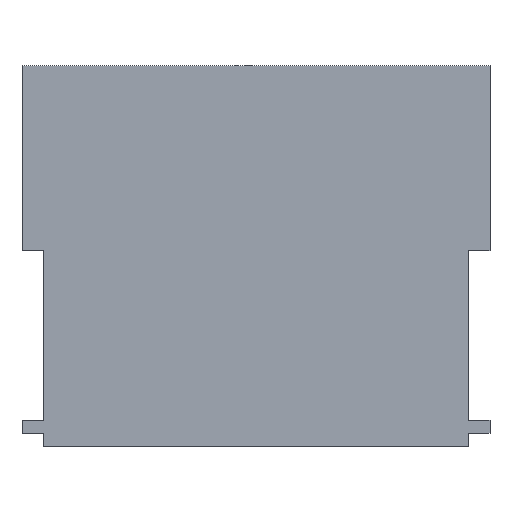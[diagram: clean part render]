
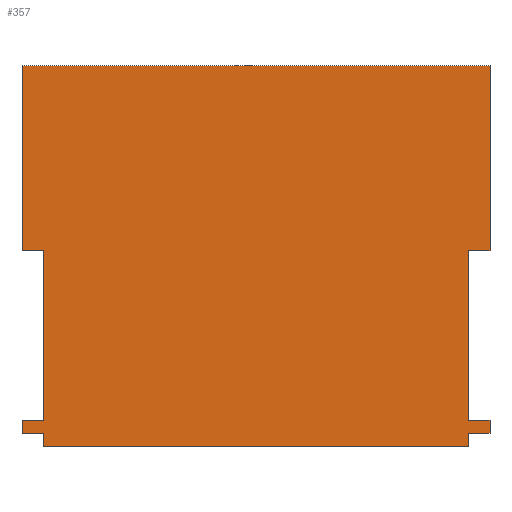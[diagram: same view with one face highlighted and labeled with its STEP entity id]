
A CAD part, top view. The second image highlights one B-rep face of the part: STEP entity #357.
In plain terms, the highlighted planar face has unit normal (0, 0, 1).
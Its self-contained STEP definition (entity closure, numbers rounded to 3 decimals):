
#31=FACE_OUTER_BOUND('',#49,.T.);
#49=EDGE_LOOP('',(#291,#292,#293,#294,#295,#296,#297,#298,#299,#300,#301,
#302,#303,#304,#305,#306));
#53=LINE('',#473,#101);
#56=LINE('',#479,#104);
#59=LINE('',#485,#107);
#62=LINE('',#491,#110);
#65=LINE('',#497,#113);
#68=LINE('',#503,#116);
#71=LINE('',#509,#119);
#74=LINE('',#515,#122);
#77=LINE('',#521,#125);
#80=LINE('',#527,#128);
#83=LINE('',#533,#131);
#86=LINE('',#539,#134);
#89=LINE('',#545,#137);
#92=LINE('',#551,#140);
#95=LINE('',#557,#143);
#98=LINE('',#561,#146);
#101=VECTOR('',#385,10.);
#104=VECTOR('',#390,10.);
#107=VECTOR('',#395,10.);
#110=VECTOR('',#400,10.);
#113=VECTOR('',#405,10.);
#116=VECTOR('',#410,10.);
#119=VECTOR('',#415,10.);
#122=VECTOR('',#420,10.);
#125=VECTOR('',#425,10.);
#128=VECTOR('',#430,10.);
#131=VECTOR('',#435,10.);
#134=VECTOR('',#440,10.);
#137=VECTOR('',#445,10.);
#140=VECTOR('',#450,10.);
#143=VECTOR('',#455,10.);
#146=VECTOR('',#460,10.);
#149=VERTEX_POINT('',#470);
#150=VERTEX_POINT('',#472);
#152=VERTEX_POINT('',#478);
#154=VERTEX_POINT('',#484);
#156=VERTEX_POINT('',#490);
#158=VERTEX_POINT('',#496);
#160=VERTEX_POINT('',#502);
#162=VERTEX_POINT('',#508);
#164=VERTEX_POINT('',#514);
#166=VERTEX_POINT('',#520);
#168=VERTEX_POINT('',#526);
#170=VERTEX_POINT('',#532);
#172=VERTEX_POINT('',#538);
#174=VERTEX_POINT('',#544);
#176=VERTEX_POINT('',#550);
#178=VERTEX_POINT('',#556);
#181=EDGE_CURVE('',#150,#149,#53,.T.);
#184=EDGE_CURVE('',#152,#150,#56,.T.);
#187=EDGE_CURVE('',#154,#152,#59,.T.);
#190=EDGE_CURVE('',#156,#154,#62,.T.);
#193=EDGE_CURVE('',#158,#156,#65,.T.);
#196=EDGE_CURVE('',#160,#158,#68,.T.);
#199=EDGE_CURVE('',#162,#160,#71,.T.);
#202=EDGE_CURVE('',#164,#162,#74,.T.);
#205=EDGE_CURVE('',#166,#164,#77,.T.);
#208=EDGE_CURVE('',#168,#166,#80,.T.);
#211=EDGE_CURVE('',#170,#168,#83,.T.);
#214=EDGE_CURVE('',#172,#170,#86,.T.);
#217=EDGE_CURVE('',#174,#172,#89,.T.);
#220=EDGE_CURVE('',#176,#174,#92,.T.);
#223=EDGE_CURVE('',#178,#176,#95,.T.);
#226=EDGE_CURVE('',#149,#178,#98,.T.);
#291=ORIENTED_EDGE('',*,*,#226,.T.);
#292=ORIENTED_EDGE('',*,*,#223,.T.);
#293=ORIENTED_EDGE('',*,*,#220,.T.);
#294=ORIENTED_EDGE('',*,*,#217,.T.);
#295=ORIENTED_EDGE('',*,*,#214,.T.);
#296=ORIENTED_EDGE('',*,*,#211,.T.);
#297=ORIENTED_EDGE('',*,*,#208,.T.);
#298=ORIENTED_EDGE('',*,*,#205,.T.);
#299=ORIENTED_EDGE('',*,*,#202,.T.);
#300=ORIENTED_EDGE('',*,*,#199,.T.);
#301=ORIENTED_EDGE('',*,*,#196,.T.);
#302=ORIENTED_EDGE('',*,*,#193,.T.);
#303=ORIENTED_EDGE('',*,*,#190,.T.);
#304=ORIENTED_EDGE('',*,*,#187,.T.);
#305=ORIENTED_EDGE('',*,*,#184,.T.);
#306=ORIENTED_EDGE('',*,*,#181,.T.);
#339=PLANE('',#377);
#357=ADVANCED_FACE('',(#31),#339,.T.);
#377=AXIS2_PLACEMENT_3D('',#562,#461,#462);
#385=DIRECTION('',(0.,-1.,0.));
#390=DIRECTION('',(1.,0.,0.));
#395=DIRECTION('',(0.,-1.,0.));
#400=DIRECTION('',(-1.,0.,0.));
#405=DIRECTION('',(0.,1.,0.));
#410=DIRECTION('',(1.,0.,0.));
#415=DIRECTION('',(0.,1.,0.));
#420=DIRECTION('',(-1.,0.,0.));
#425=DIRECTION('',(0.,1.,0.));
#430=DIRECTION('',(1.,0.,0.));
#435=DIRECTION('',(0.,1.,0.));
#440=DIRECTION('',(1.,0.,0.));
#445=DIRECTION('',(0.,-1.,0.));
#450=DIRECTION('',(1.,0.,0.));
#455=DIRECTION('',(0.,-1.,0.));
#460=DIRECTION('',(-1.,0.,0.));
#461=DIRECTION('center_axis',(0.,0.,1.));
#462=DIRECTION('ref_axis',(1.,0.,0.));
#470=CARTESIAN_POINT('',(-19.5,2.4,1.));
#472=CARTESIAN_POINT('',(-19.5,18.,1.));
#473=CARTESIAN_POINT('',(-19.5,2.4,1.));
#478=CARTESIAN_POINT('',(-21.5,18.,1.));
#479=CARTESIAN_POINT('',(-19.5,18.,1.));
#484=CARTESIAN_POINT('',(-21.5,35.,1.));
#485=CARTESIAN_POINT('',(-21.5,18.,1.));
#490=CARTESIAN_POINT('',(21.5,35.,1.));
#491=CARTESIAN_POINT('',(21.5,35.,1.));
#496=CARTESIAN_POINT('',(21.5,18.,1.));
#497=CARTESIAN_POINT('',(21.5,18.,1.));
#502=CARTESIAN_POINT('',(19.5,18.,1.));
#503=CARTESIAN_POINT('',(19.5,18.,1.));
#508=CARTESIAN_POINT('',(19.5,2.4,1.));
#509=CARTESIAN_POINT('',(19.5,2.4,1.));
#514=CARTESIAN_POINT('',(21.5,2.4,1.));
#515=CARTESIAN_POINT('',(19.5,2.4,1.));
#520=CARTESIAN_POINT('',(21.5,1.2,1.));
#521=CARTESIAN_POINT('',(21.5,2.4,1.));
#526=CARTESIAN_POINT('',(19.5,1.2,1.));
#527=CARTESIAN_POINT('',(21.5,1.2,1.));
#532=CARTESIAN_POINT('',(19.5,0.,1.));
#533=CARTESIAN_POINT('',(19.5,0.,1.));
#538=CARTESIAN_POINT('',(-19.5,0.,1.));
#539=CARTESIAN_POINT('',(0.,0.,1.));
#544=CARTESIAN_POINT('',(-19.5,1.2,1.));
#545=CARTESIAN_POINT('',(-19.5,0.,1.));
#550=CARTESIAN_POINT('',(-21.5,1.2,1.));
#551=CARTESIAN_POINT('',(-21.5,1.2,1.));
#556=CARTESIAN_POINT('',(-21.5,2.4,1.));
#557=CARTESIAN_POINT('',(-21.5,2.4,1.));
#561=CARTESIAN_POINT('',(-19.5,2.4,1.));
#562=CARTESIAN_POINT('Origin',(0.,17.5,1.));
